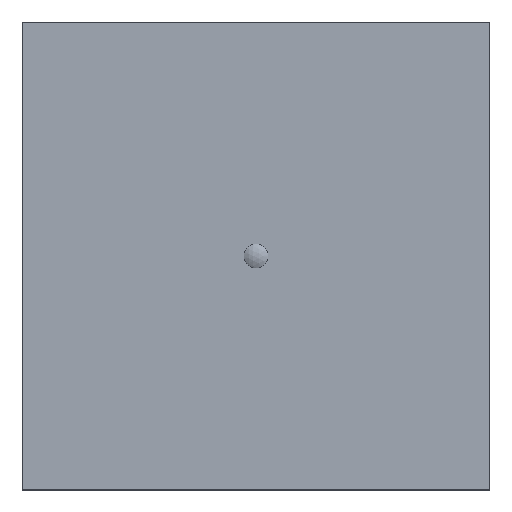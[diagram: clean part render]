
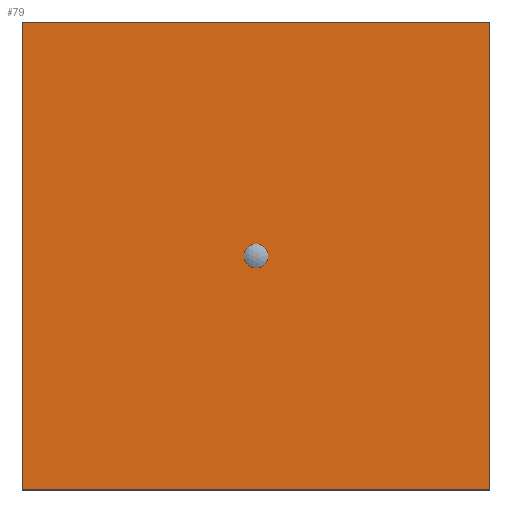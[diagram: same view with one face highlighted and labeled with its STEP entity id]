
A CAD part, top view. The second image highlights one B-rep face of the part: STEP entity #79.
In plain terms, the highlighted planar face has unit normal (0, 0, 1).
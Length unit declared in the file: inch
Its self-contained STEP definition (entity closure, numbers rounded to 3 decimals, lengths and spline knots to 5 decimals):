
#79=ADVANCED_FACE('',(#93,#94),#95,.T.);
#93=FACE_OUTER_BOUND('',#111,.T.);
#94=FACE_BOUND('',#112,.T.);
#95=PLANE('',#113);
#111=EDGE_LOOP('',(#149,#150,#151,#152));
#112=EDGE_LOOP('',(#153));
#113=AXIS2_PLACEMENT_3D('',#154,#155,#156);
#149=ORIENTED_EDGE('',*,*,#173,.T.);
#150=ORIENTED_EDGE('',*,*,#183,.F.);
#151=ORIENTED_EDGE('',*,*,#184,.T.);
#152=ORIENTED_EDGE('',*,*,#180,.T.);
#153=ORIENTED_EDGE('',*,*,#185,.T.);
#154=CARTESIAN_POINT('',(0.0,0.282,0.282));
#155=DIRECTION('',(0.0,0.0,1.0));
#156=DIRECTION('',(1.0,0.0,0.0));
#173=EDGE_CURVE('',#189,#186,#190,.T.);
#180=EDGE_CURVE('',#201,#189,#202,.T.);
#183=EDGE_CURVE('',#204,#186,#206,.T.);
#184=EDGE_CURVE('',#204,#201,#207,.T.);
#185=EDGE_CURVE('',#208,#208,#209,.T.);
#186=VERTEX_POINT('',#210);
#189=VERTEX_POINT('',#214);
#190=LINE('',#215,#216);
#201=VERTEX_POINT('',#232);
#202=LINE('',#233,#234);
#204=VERTEX_POINT('',#237);
#206=LINE('',#240,#241);
#207=LINE('',#242,#243);
#208=VERTEX_POINT('',#244);
#209=CIRCLE('',#245,0.05109);
#210=CARTESIAN_POINT('',(2.01981,-1.068,0.282));
#214=CARTESIAN_POINT('',(2.01981,0.932,0.282));
#215=CARTESIAN_POINT('',(2.01981,0.307,0.282));
#216=VECTOR('',#247,1.0);
#232=CARTESIAN_POINT('',(4.01981,0.932,0.282));
#233=CARTESIAN_POINT('',(1.97241,0.932,0.282));
#234=VECTOR('',#256,0.04508);
#237=CARTESIAN_POINT('',(4.01981,-1.068,0.282));
#240=CARTESIAN_POINT('',(1.97241,-1.068,0.282));
#241=VECTOR('',#259,0.04508);
#242=CARTESIAN_POINT('',(4.01981,-0.043,0.282));
#243=VECTOR('',#260,0.65);
#244=CARTESIAN_POINT('',(3.01981,-0.01691,0.282));
#245=AXIS2_PLACEMENT_3D('',#261,#262,#263);
#247=DIRECTION('',(0.0,-1.0,0.0));
#256=DIRECTION('',(-1.0,0.0,0.0));
#259=DIRECTION('',(-1.0,0.0,0.0));
#260=DIRECTION('',(0.0,1.0,0.0));
#261=CARTESIAN_POINT('',(3.01981,-0.068,0.282));
#262=DIRECTION('',(0.0,0.0,-1.0));
#263=DIRECTION('',(0.0,-1.0,0.0));
